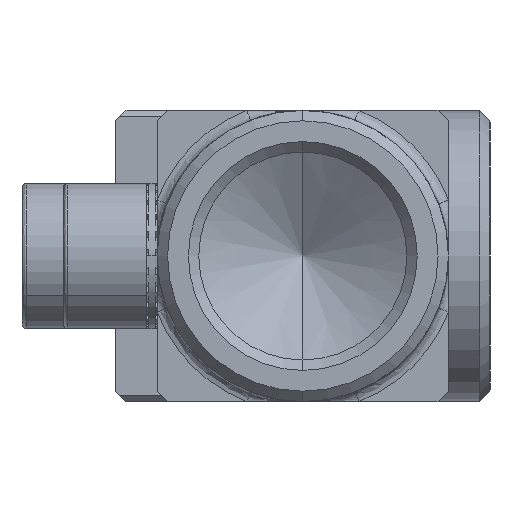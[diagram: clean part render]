
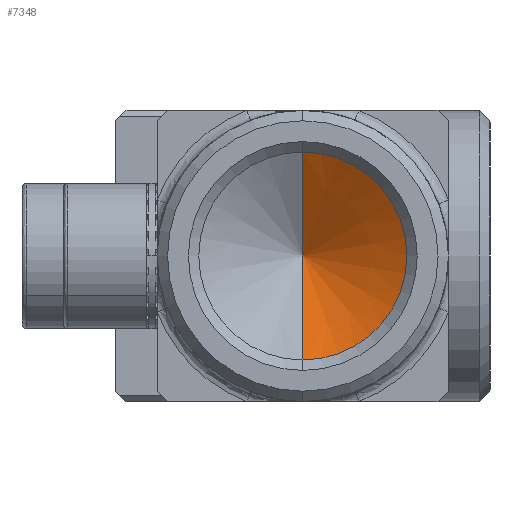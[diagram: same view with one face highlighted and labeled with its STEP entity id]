
A CAD part, left-side view. The second image highlights one B-rep face of the part: STEP entity #7348.
In plain terms, the highlighted conical face has half-angle 59 degrees and reference radius 1664.28 mm.
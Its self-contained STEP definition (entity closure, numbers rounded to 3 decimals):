
#692 = LINE ( 'NONE', #19123, #10811 ) ;
#2010 = DIRECTION ( 'NONE',  ( -1., 0., 0. ) ) ;
#3434 = VERTEX_POINT ( 'NONE', #18973 ) ;
#3921 = EDGE_CURVE ( 'NONE', #7762, #3434, #692, .T. ) ;
#4907 = CARTESIAN_POINT ( 'NONE',  ( -42.556, 17.177, 0. ) ) ;
#7348 = ADVANCED_FACE ( 'NONE', ( #12888 ), #26007, .F. ) ;
#7762 = VERTEX_POINT ( 'NONE', #15242 ) ;
#7940 = CIRCLE ( 'NONE', #15428, 5. ) ;
#8974 = DIRECTION ( 'NONE',  ( -0.515, 0., -0.857 ) ) ;
#8976 = DIRECTION ( 'NONE',  ( 1., 0., 0. ) ) ;
#10146 = VERTEX_POINT ( 'NONE', #11009 ) ;
#10811 = VECTOR ( 'NONE', #8974, 1000. ) ;
#11009 = CARTESIAN_POINT ( 'NONE',  ( -45.561, 17.177, 5. ) ) ;
#12815 = ORIENTED_EDGE ( 'NONE', *, *, #3921, .T. ) ;
#12888 = FACE_OUTER_BOUND ( 'NONE', #22672, .T. ) ;
#13103 = DIRECTION ( 'NONE',  ( -0.515, 0., 0.857 ) ) ;
#14179 = CARTESIAN_POINT ( 'NONE',  ( -1042.556, 17.177, 0. ) ) ;
#15242 = CARTESIAN_POINT ( 'NONE',  ( -42.556, 17.177, 0. ) ) ;
#15428 = AXIS2_PLACEMENT_3D ( 'NONE', #21200, #8976, #23251 ) ;
#18973 = CARTESIAN_POINT ( 'NONE',  ( -45.561, 17.177, -5. ) ) ;
#19123 = CARTESIAN_POINT ( 'NONE',  ( -42.556, 17.177, 0. ) ) ;
#19148 = VECTOR ( 'NONE', #13103, 1000. ) ;
#19366 = EDGE_CURVE ( 'NONE', #10146, #3434, #7940, .T. ) ;
#19466 = ORIENTED_EDGE ( 'NONE', *, *, #22603, .F. ) ;
#21200 = CARTESIAN_POINT ( 'NONE',  ( -45.561, 17.177, 0. ) ) ;
#22015 = ORIENTED_EDGE ( 'NONE', *, *, #19366, .F. ) ;
#22603 = EDGE_CURVE ( 'NONE', #7762, #10146, #24611, .T. ) ;
#22672 = EDGE_LOOP ( 'NONE', ( #19466, #12815, #22015 ) ) ;
#23251 = DIRECTION ( 'NONE',  ( 0., 0., 1. ) ) ;
#24430 = DIRECTION ( 'NONE',  ( 0., 0., 1. ) ) ;
#24611 = LINE ( 'NONE', #4907, #19148 ) ;
#24849 = AXIS2_PLACEMENT_3D ( 'NONE', #14179, #2010, #24430 ) ;
#26007 = CONICAL_SURFACE ( 'NONE', #24849, 1664.279, 1.03 ) ;
